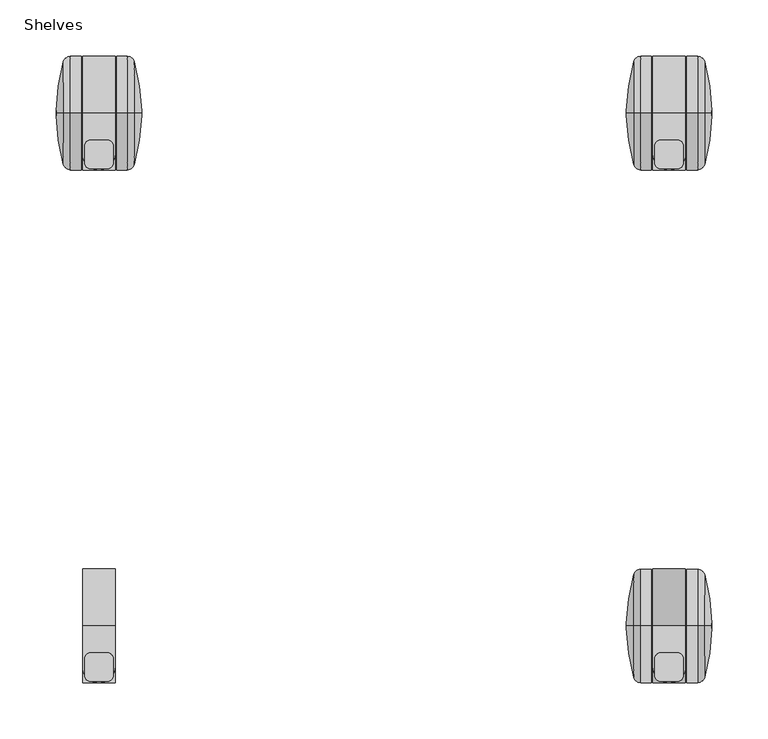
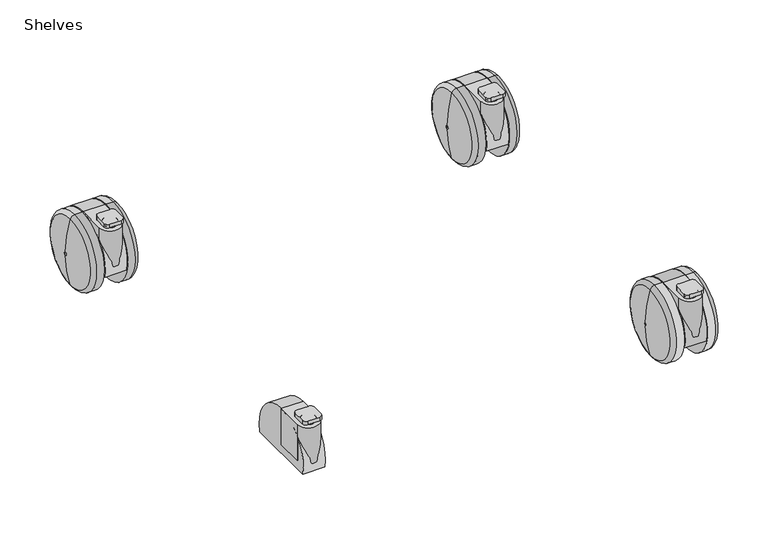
"""IFC4 building model written with IfcOpenShell, lengths in millimetres: furniture geometry, SmithSystem_AM_Storage_Education_Cascade_Case_Mini : Shelves."""

from ifc_helpers import new_model, si_unit, point, frame, frame_2d, origin, place, context, project, spatial, polyline, circle_curve, ellipse_curve, trimmed, segment, composite_curve, outline, extrude, source, transform, mapped, element, save
from ifc_brep_helpers import plane_surface, cylinder_surface, revolved_surface, advanced_brep


def shelves_1575215d(model_context):
    return source(origin(), model_context, "Body", "SolidModel", [
        advanced_brep(
        [(520.7, -20.4149191, 101.5998802), (520.7, -4.9850809, 101.5998802), (520.7, -12.7, 101.5998802), (520.7, -12.7, 106.68), (520.7, -4.9850809, 106.68), (520.7, -20.4149191, 106.68), (520.7, -20.4149191, 102.8058381), (520.7, -4.9850809, 102.8058381)],
        [
            (0, 1, circle_curve(frame((520.7, -12.7, 101.5998802), z_axis=(0.0, 0.0, -1.0), x_axis=(0.0, 1.0, 0.0)), 7.7149191)),
            (1, 2),
            (2, 0),
            (1, 0, circle_curve(frame((520.7, -12.7, 101.5998802), z_axis=(0.0, 0.0, -1.0), x_axis=(0.0, 1.0, 0.0)), 7.7149191)),
            (3, 4),
            (4, 5, circle_curve(frame((520.7, -12.7, 106.68), z_axis=(0.0, 0.0, 1.0), x_axis=(0.0, 1.0, 0.0)), 7.7149191)),
            (5, 3),
            (5, 4, circle_curve(frame((520.7, -12.7, 106.68), z_axis=(0.0, 0.0, 1.0), x_axis=(0.0, 1.0, 0.0)), 7.7149191)),
            (6, 7, circle_curve(frame((520.7, -12.7, 102.8058381), z_axis=(0.0, 0.0, -1.0), x_axis=(0.0, 1.0, 0.0)), 7.7149191)),
            (7, 1),
            (0, 6),
            (7, 6, circle_curve(frame((520.7, -12.7, 102.8058381), z_axis=(0.0, 0.0, -1.0), x_axis=(0.0, 1.0, 0.0)), 7.7149191)),
            (4, 7, circle_curve(frame((520.7, -4.9850809, 104.7429191), z_axis=(-1.0, 0.0, 0.0), x_axis=(0.0, -1.0, 0.0)), 1.9370809)),
            (6, 5, circle_curve(frame((520.7, -20.4149191, 104.7429191), z_axis=(-1.0, 0.0, 0.0), x_axis=(0.0, 1.0, 0.0)), 1.9370809)),
        ],
        [
            plane_surface(frame((520.7, -12.7, 101.5998802), z_axis=(0.0, 0.0, -1.0), x_axis=(0.0, 1.0, 0.0))),
            plane_surface(frame((520.7, -12.7, 106.68), z_axis=(0.0, 0.0, 1.0), x_axis=(0.0, 1.0, 0.0))),
            cylinder_surface(frame((520.7, -12.7, 99.7644191), z_axis=(0.0, 0.0, 1.0), x_axis=(0.0, 1.0, 0.0)), 7.7149191),
            revolved_surface(trimmed(ellipse_curve(frame((520.7, -4.9850809, 104.7429191), z_axis=(1.0, 0.0, 0.0), x_axis=(0.0, -1.0, 0.0)), 1.9370809, 1.9370809), [point((520.7, -4.9850809, 102.8058381))], [point((520.7, -4.9850809, 106.68))], True, "CARTESIAN"), (520.7, -12.7, 99.7644191), (0.0, 0.0, 1.0)),
        ],
        [
            (0, [[1, 2, 3]]),
            (0, [[4, -3, -2]]),
            (1, [[5, 6, 7]]),
            (1, [[-7, 8, -5]]),
            (2, [[9, 10, -1, 11]]),
            (2, [[12, -11, -4, -10]]),
            (3, [[-6, 13, -9, 14]]),
            (3, [[-8, -14, -12, -13]]),
        ],
    ),
        extrude(outline(composite_curve([segment(trimmed(circle_curve(frame_2d((528.32, -5.08)), 5.08), [point((528.32, 0.0))], [point((533.4, -5.08))], False, "CARTESIAN"), True, "CONTINUOUS"), segment(polyline([(533.4, -5.08), (533.4, -20.32)]), True, "CONTINUOUS"), segment(trimmed(circle_curve(frame_2d((528.32, -20.32)), 5.08), [point((533.4, -20.32))], [point((528.32, -25.4))], False, "CARTESIAN"), True, "CONTINUOUS"), segment(polyline([(528.32, -25.4), (513.08, -25.4)]), True, "CONTINUOUS"), segment(trimmed(circle_curve(frame_2d((513.08, -20.32)), 5.08), [point((513.08, -25.4))], [point((508.0, -20.32))], False, "CARTESIAN"), True, "CONTINUOUS"), segment(polyline([(508.0, -20.32), (508.0, -5.08)]), True, "CONTINUOUS"), segment(trimmed(circle_curve(frame_2d((513.08, -5.08)), 5.08), [point((508.0, -5.08))], [point((513.08, 0.0))], False, "CARTESIAN"), True, "CONTINUOUS"), segment(polyline([(513.08, 0.0), (528.32, 0.0)]), True, "CONTINUOUS")], self_intersect=False)), frame((0.0, 0.0, 106.68), z_axis=(0.0, 0.0, 1.0), x_axis=(1.0, 0.0, 0.0)), (0.0, 0.0, 1.0), 5.0798802),
        extrude(outline(composite_curve([segment(polyline([(535.2408852, 24.0714304), (535.2408852, -12.1876844)]), True, "CONTINUOUS"), segment(trimmed(circle_curve(frame_2d((520.7, -12.1876844)), 14.5408852), [point((535.2408852, -12.1876844))], [point((506.1591148, -12.1876844))], False, "CARTESIAN"), True, "CONTINUOUS"), segment(polyline([(506.1591148, -12.1876844), (506.1591148, 24.0714304), (535.2408852, 24.0714304)]), True, "CONTINUOUS")], self_intersect=False)), frame((0.0, 0.0, 50.8), z_axis=(0.0, 0.0, 1.0), x_axis=(1.0, 0.0, 0.0)), (0.0, 0.0, 1.0), 50.7998802),
        extrude(outline(composite_curve([segment(trimmed(circle_curve(frame_2d((24.0714304, 50.8)), 50.8), [point((-25.3571755, 39.0759683))], [point((73.5000362, 39.0759683))], False, "CARTESIAN"), True, "CONTINUOUS"), segment(polyline([(73.5000362, 39.0759683), (-25.3571755, 39.0759683)]), True, "CONTINUOUS")], self_intersect=False)), frame((506.1591148, 0.0, 0.0), z_axis=(1.0, 0.0, 0.0), x_axis=(0.0, 1.0, 0.0)), (0.0, 0.0, 1.0), 29.0817705),
        advanced_brep(
        [(495.2662677, 24.0714304, 101.6), (495.2662677, 24.0714304, 0.0), (504.8891148, 24.0714304, 0.0), (504.8891148, 24.0714304, 101.6), (504.8891148, 24.0714304, 50.8), (482.6, 24.0714304, 50.8), (482.6412335, 24.0714304, 48.5740197), (482.6412335, 24.0714304, 53.0259803), (489.1241972, 24.0714304, 4.7383332), (489.1241972, 24.0714304, 96.8616668)],
        [
            (0, 1, circle_curve(frame((495.2662677, 24.0714304, 50.8), z_axis=(1.0, 0.0, 0.0), x_axis=(0.0, 0.0, -1.0)), 50.8)),
            (1, 2),
            (2, 3, circle_curve(frame((504.8891148, 24.0714304, 50.8), z_axis=(-1.0, 0.0, 0.0), x_axis=(0.0, 0.0, -1.0)), 50.8)),
            (3, 0),
            (1, 0, circle_curve(frame((495.2662677, 24.0714304, 50.8), z_axis=(1.0, 0.0, 0.0), x_axis=(0.0, 0.0, -1.0)), 50.8)),
            (3, 2, circle_curve(frame((504.8891148, 24.0714304, 50.8), z_axis=(-1.0, 0.0, 0.0), x_axis=(0.0, 0.0, -1.0)), 50.8)),
            (2, 4),
            (4, 3),
            (5, 6, circle_curve(frame((542.7051167, 24.0714304, 50.8), z_axis=(0.0, -1.0, 0.0), x_axis=(1.0, 0.0, 0.0)), 60.1051167)),
            (6, 7, circle_curve(frame((482.6412335, 24.0714304, 50.8), z_axis=(-1.0, 0.0, 0.0), x_axis=(0.0, 0.0, -1.0)), 2.2259803)),
            (7, 5, circle_curve(frame((542.7051167, 24.0714304, 50.8), z_axis=(0.0, -1.0, 0.0), x_axis=(1.0, 0.0, 0.0)), 60.1051167)),
            (7, 6, circle_curve(frame((482.6412335, 24.0714304, 50.8), z_axis=(-1.0, 0.0, 0.0), x_axis=(0.0, 0.0, -1.0)), 2.2259803)),
            (6, 8, circle_curve(frame((684.7236761, 24.0714304, 56.0632381), z_axis=(0.0, -1.0, 0.0), x_axis=(1.0, 0.0, 0.0)), 202.221171)),
            (8, 9, circle_curve(frame((489.1241972, 24.0714304, 50.8), z_axis=(-1.0, 0.0, 0.0), x_axis=(0.0, 0.0, -1.0)), 46.0616668)),
            (9, 7, circle_curve(frame((684.7236761, 24.0714304, 45.5367619), z_axis=(0.0, -1.0, 0.0), x_axis=(1.0, 0.0, 0.0)), 202.221171)),
            (9, 8, circle_curve(frame((489.1241972, 24.0714304, 50.8), z_axis=(-1.0, 0.0, 0.0), x_axis=(0.0, 0.0, -1.0)), 46.0616668)),
            (8, 1, circle_curve(frame((495.2662677, 24.0714304, 6.35), z_axis=(0.0, -1.0, 0.0), x_axis=(1.0, 0.0, 0.0)), 6.35)),
            (0, 9, circle_curve(frame((495.2662677, 24.0714304, 95.25), z_axis=(0.0, -1.0, 0.0), x_axis=(1.0, 0.0, 0.0)), 6.35)),
        ],
        [
            cylinder_surface(frame((511.3119309, 24.0714304, 50.8), z_axis=(-1.0, 0.0, 0.0), x_axis=(0.0, 0.0, -1.0)), 50.8),
            plane_surface(frame((504.8891148, 24.0714304, 50.8), z_axis=(1.0, 0.0, 0.0), x_axis=(0.0, 0.0, -1.0))),
            revolved_surface(trimmed(ellipse_curve(frame((542.7051167, 24.0714304, 50.8), z_axis=(0.0, 1.0, 0.0), x_axis=(1.0, 0.0, 0.0)), 60.1051167, 60.1051167), [point((482.6412335, 24.0714304, 48.5740197))], [point((482.6, 24.0714304, 50.8))], True, "CARTESIAN"), (511.3119309, 24.0714304, 50.8), (-1.0, 0.0, 0.0)),
            revolved_surface(trimmed(ellipse_curve(frame((684.7236761, 24.0714304, 56.0632381), z_axis=(0.0, 1.0, 0.0), x_axis=(1.0, 0.0, 0.0)), 202.221171, 202.221171), [point((489.1241972, 24.0714304, 4.7383332))], [point((482.6412335, 24.0714304, 48.5740197))], True, "CARTESIAN"), (511.3119309, 24.0714304, 50.8), (-1.0, 0.0, 0.0)),
            revolved_surface(trimmed(ellipse_curve(frame((495.2662677, 24.0714304, 6.35), z_axis=(0.0, 1.0, 0.0), x_axis=(1.0, 0.0, 0.0)), 6.35, 6.35), [point((495.2662677, 24.0714304, 0.0))], [point((489.1241972, 24.0714304, 4.7383332))], True, "CARTESIAN"), (511.3119309, 24.0714304, 50.8), (-1.0, 0.0, 0.0)),
        ],
        [
            (0, [[1, 2, 3, 4]]),
            (0, [[5, -4, 6, -2]]),
            (1, [[-3, 7, 8]]),
            (1, [[-6, -8, -7]]),
            (2, [[9, 10, 11]]),
            (2, [[-11, 12, -9]]),
            (3, [[-10, 13, 14, 15]]),
            (3, [[-12, -15, 16, -13]]),
            (4, [[-14, 17, -1, 18]]),
            (4, [[-16, -18, -5, -17]]),
        ],
    ),
        advanced_brep(
        [(536.5108852, 24.0714304, 50.8), (536.5108852, 24.0714304, 0.0), (536.5108852, 24.0714304, 101.6), (546.1337323, 24.0714304, 0.0), (546.1337323, 24.0714304, 101.6), (552.2758028, 24.0714304, 4.7383332), (552.2758028, 24.0714304, 96.8616668), (558.7587665, 24.0714304, 48.5740197), (558.7587665, 24.0714304, 53.0259803), (558.8, 24.0714304, 50.8)],
        [
            (0, 1),
            (1, 2, circle_curve(frame((536.5108852, 24.0714304, 50.8), z_axis=(-1.0, 0.0, 0.0), x_axis=(0.0, 0.0, -1.0)), 50.8)),
            (2, 0),
            (2, 1, circle_curve(frame((536.5108852, 24.0714304, 50.8), z_axis=(-1.0, 0.0, 0.0), x_axis=(0.0, 0.0, -1.0)), 50.8)),
            (1, 3),
            (3, 4, circle_curve(frame((546.1337323, 24.0714304, 50.8), z_axis=(-1.0, 0.0, 0.0), x_axis=(0.0, 0.0, -1.0)), 50.8)),
            (4, 2),
            (4, 3, circle_curve(frame((546.1337323, 24.0714304, 50.8), z_axis=(-1.0, 0.0, 0.0), x_axis=(0.0, 0.0, -1.0)), 50.8)),
            (3, 5, circle_curve(frame((546.1337323, 24.0714304, 6.35), z_axis=(0.0, -1.0, 0.0), x_axis=(-1.0, 0.0, 0.0)), 6.35)),
            (5, 6, circle_curve(frame((552.2758028, 24.0714304, 50.8), z_axis=(-1.0, 0.0, 0.0), x_axis=(0.0, 0.0, -1.0)), 46.0616668)),
            (6, 4, circle_curve(frame((546.1337323, 24.0714304, 95.25), z_axis=(0.0, -1.0, 0.0), x_axis=(-1.0, 0.0, 0.0)), 6.35)),
            (6, 5, circle_curve(frame((552.2758028, 24.0714304, 50.8), z_axis=(-1.0, 0.0, 0.0), x_axis=(0.0, 0.0, -1.0)), 46.0616668)),
            (5, 7, circle_curve(frame((356.6763239, 24.0714304, 56.0632381), z_axis=(0.0, -1.0, 0.0), x_axis=(-1.0, 0.0, 0.0)), 202.221171)),
            (7, 8, circle_curve(frame((558.7587665, 24.0714304, 50.8), z_axis=(-1.0, 0.0, 0.0), x_axis=(0.0, 0.0, -1.0)), 2.2259803)),
            (8, 6, circle_curve(frame((356.6763239, 24.0714304, 45.5367619), z_axis=(0.0, -1.0, 0.0), x_axis=(-1.0, 0.0, 0.0)), 202.221171)),
            (8, 7, circle_curve(frame((558.7587665, 24.0714304, 50.8), z_axis=(-1.0, 0.0, 0.0), x_axis=(0.0, 0.0, -1.0)), 2.2259803)),
            (7, 9, circle_curve(frame((498.6948833, 24.0714304, 50.8), z_axis=(0.0, -1.0, 0.0), x_axis=(-1.0, 0.0, 0.0)), 60.1051167)),
            (9, 8, circle_curve(frame((498.6948833, 24.0714304, 50.8), z_axis=(0.0, -1.0, 0.0), x_axis=(-1.0, 0.0, 0.0)), 60.1051167)),
        ],
        [
            plane_surface(frame((536.5108852, 24.0714304, 50.8), z_axis=(-1.0, 0.0, 0.0), x_axis=(0.0, 0.0, -1.0))),
            cylinder_surface(frame((511.3119309, 24.0714304, 50.8), z_axis=(-1.0, 0.0, 0.0), x_axis=(0.0, 0.0, -1.0)), 50.8),
            revolved_surface(trimmed(ellipse_curve(frame((546.1337323, 24.0714304, 6.35), z_axis=(0.0, 1.0, 0.0), x_axis=(-1.0, 0.0, 0.0)), 6.35, 6.35), [point((552.2758028, 24.0714304, 4.7383332))], [point((546.1337323, 24.0714304, 0.0))], True, "CARTESIAN"), (511.3119309, 24.0714304, 50.8), (-1.0, 0.0, 0.0)),
            revolved_surface(trimmed(ellipse_curve(frame((356.6763239, 24.0714304, 56.0632381), z_axis=(0.0, 1.0, 0.0), x_axis=(-1.0, 0.0, 0.0)), 202.221171, 202.221171), [point((558.7587665, 24.0714304, 48.5740197))], [point((552.2758028, 24.0714304, 4.7383332))], True, "CARTESIAN"), (511.3119309, 24.0714304, 50.8), (-1.0, 0.0, 0.0)),
            revolved_surface(trimmed(ellipse_curve(frame((498.6948833, 24.0714304, 50.8), z_axis=(0.0, 1.0, 0.0), x_axis=(-1.0, 0.0, 0.0)), 60.1051167, 60.1051167), [point((558.8, 24.0714304, 50.8))], [point((558.7587665, 24.0714304, 48.5740197))], True, "CARTESIAN"), (511.3119309, 24.0714304, 50.8), (-1.0, 0.0, 0.0)),
        ],
        [
            (0, [[1, 2, 3]]),
            (0, [[-3, 4, -1]]),
            (1, [[-2, 5, 6, 7]]),
            (1, [[-4, -7, 8, -5]]),
            (2, [[-6, 9, 10, 11]]),
            (2, [[-8, -11, 12, -9]]),
            (3, [[-10, 13, 14, 15]]),
            (3, [[-12, -15, 16, -13]]),
            (4, [[-14, 17, 18]]),
            (4, [[-16, -18, -17]]),
        ],
    ),
        advanced_brep(
        [(12.7, -20.4149191, 101.5998802), (12.7, -4.9850809, 101.5998802), (12.7, -12.7, 101.5998802), (12.7, -12.7, 106.68), (12.7, -4.9850809, 106.68), (12.7, -20.4149191, 106.68), (12.7, -20.4149191, 102.8058381), (12.7, -4.9850809, 102.8058381)],
        [
            (0, 1, circle_curve(frame((12.7, -12.7, 101.5998802), z_axis=(0.0, 0.0, -1.0), x_axis=(0.0, 1.0, 0.0)), 7.7149191)),
            (1, 2),
            (2, 0),
            (1, 0, circle_curve(frame((12.7, -12.7, 101.5998802), z_axis=(0.0, 0.0, -1.0), x_axis=(0.0, 1.0, 0.0)), 7.7149191)),
            (3, 4),
            (4, 5, circle_curve(frame((12.7, -12.7, 106.68), z_axis=(0.0, 0.0, 1.0), x_axis=(0.0, 1.0, 0.0)), 7.7149191)),
            (5, 3),
            (5, 4, circle_curve(frame((12.7, -12.7, 106.68), z_axis=(0.0, 0.0, 1.0), x_axis=(0.0, 1.0, 0.0)), 7.7149191)),
            (6, 7, circle_curve(frame((12.7, -12.7, 102.8058381), z_axis=(0.0, 0.0, -1.0), x_axis=(0.0, 1.0, 0.0)), 7.7149191)),
            (7, 1),
            (0, 6),
            (7, 6, circle_curve(frame((12.7, -12.7, 102.8058381), z_axis=(0.0, 0.0, -1.0), x_axis=(0.0, 1.0, 0.0)), 7.7149191)),
            (4, 7, circle_curve(frame((12.7, -4.9850809, 104.7429191), z_axis=(-1.0, 0.0, 0.0), x_axis=(0.0, -1.0, 0.0)), 1.9370809)),
            (6, 5, circle_curve(frame((12.7, -20.4149191, 104.7429191), z_axis=(-1.0, 0.0, 0.0), x_axis=(0.0, 1.0, 0.0)), 1.9370809)),
        ],
        [
            plane_surface(frame((12.7, -12.7, 101.5998802), z_axis=(0.0, 0.0, -1.0), x_axis=(0.0, 1.0, 0.0))),
            plane_surface(frame((12.7, -12.7, 106.68), z_axis=(0.0, 0.0, 1.0), x_axis=(0.0, 1.0, 0.0))),
            cylinder_surface(frame((12.7, -12.7, 99.7644191), z_axis=(0.0, 0.0, 1.0), x_axis=(0.0, 1.0, 0.0)), 7.7149191),
            revolved_surface(trimmed(ellipse_curve(frame((12.7, -4.9850809, 104.7429191), z_axis=(1.0, 0.0, 0.0), x_axis=(0.0, -1.0, 0.0)), 1.9370809, 1.9370809), [point((12.7, -4.9850809, 102.8058381))], [point((12.7, -4.9850809, 106.68))], True, "CARTESIAN"), (12.7, -12.7, 99.7644191), (0.0, 0.0, 1.0)),
        ],
        [
            (0, [[1, 2, 3]]),
            (0, [[4, -3, -2]]),
            (1, [[5, 6, 7]]),
            (1, [[-7, 8, -5]]),
            (2, [[9, 10, -1, 11]]),
            (2, [[12, -11, -4, -10]]),
            (3, [[-6, 13, -9, 14]]),
            (3, [[-8, -14, -12, -13]]),
        ],
    ),
        extrude(outline(composite_curve([segment(trimmed(circle_curve(frame_2d((20.32, -5.08)), 5.08), [point((20.32, 0.0))], [point((25.4, -5.08))], False, "CARTESIAN"), True, "CONTINUOUS"), segment(polyline([(25.4, -5.08), (25.4, -20.32)]), True, "CONTINUOUS"), segment(trimmed(circle_curve(frame_2d((20.32, -20.32)), 5.08), [point((25.4, -20.32))], [point((20.32, -25.4))], False, "CARTESIAN"), True, "CONTINUOUS"), segment(polyline([(20.32, -25.4), (5.08, -25.4)]), True, "CONTINUOUS"), segment(trimmed(circle_curve(frame_2d((5.08, -20.32)), 5.08), [point((5.08, -25.4))], [point((0.0, -20.32))], False, "CARTESIAN"), True, "CONTINUOUS"), segment(polyline([(0.0, -20.32), (0.0, -5.08)]), True, "CONTINUOUS"), segment(trimmed(circle_curve(frame_2d((5.08, -5.08)), 5.08), [point((0.0, -5.08))], [point((5.08, 0.0))], False, "CARTESIAN"), True, "CONTINUOUS"), segment(polyline([(5.08, 0.0), (20.32, 0.0)]), True, "CONTINUOUS")], self_intersect=False)), frame((0.0, 0.0, 106.68), z_axis=(0.0, 0.0, 1.0), x_axis=(1.0, 0.0, 0.0)), (0.0, 0.0, 1.0), 5.0798802),
        extrude(outline(composite_curve([segment(polyline([(27.2408852, 24.0714304), (27.2408852, -12.1876844)]), True, "CONTINUOUS"), segment(trimmed(circle_curve(frame_2d((12.7, -12.1876844)), 14.5408852), [point((27.2408852, -12.1876844))], [point((-1.8408852, -12.1876844))], False, "CARTESIAN"), True, "CONTINUOUS"), segment(polyline([(-1.8408852, -12.1876844), (-1.8408852, 24.0714304), (27.2408852, 24.0714304)]), True, "CONTINUOUS")], self_intersect=False)), frame((0.0, 0.0, 50.8), z_axis=(0.0, 0.0, 1.0), x_axis=(1.0, 0.0, 0.0)), (0.0, 0.0, 1.0), 50.7998802),
        extrude(outline(composite_curve([segment(trimmed(circle_curve(frame_2d((24.0714304, 50.8)), 50.8), [point((-25.3571755, 39.0759683))], [point((73.5000362, 39.0759683))], False, "CARTESIAN"), True, "CONTINUOUS"), segment(polyline([(73.5000362, 39.0759683), (-25.3571755, 39.0759683)]), True, "CONTINUOUS")], self_intersect=False)), frame((-1.8408852, 0.0, 0.0), z_axis=(1.0, 0.0, 0.0), x_axis=(0.0, 1.0, 0.0)), (0.0, 0.0, 1.0), 29.0817705),
        advanced_brep(
        [(-12.7337323, 24.0714304, 101.6), (-12.7337323, 24.0714304, 0.0), (-3.1108852, 24.0714304, 0.0), (-3.1108852, 24.0714304, 101.6), (-3.1108852, 24.0714304, 50.8), (-25.4, 24.0714304, 50.8), (-25.3587665, 24.0714304, 48.5740197), (-25.3587665, 24.0714304, 53.0259803), (-18.8758028, 24.0714304, 4.7383332), (-18.8758028, 24.0714304, 96.8616668)],
        [
            (0, 1, circle_curve(frame((-12.7337323, 24.0714304, 50.8), z_axis=(1.0, 0.0, 0.0), x_axis=(0.0, 0.0, -1.0)), 50.8)),
            (1, 2),
            (2, 3, circle_curve(frame((-3.1108852, 24.0714304, 50.8), z_axis=(-1.0, 0.0, 0.0), x_axis=(0.0, 0.0, -1.0)), 50.8)),
            (3, 0),
            (1, 0, circle_curve(frame((-12.7337323, 24.0714304, 50.8), z_axis=(1.0, 0.0, 0.0), x_axis=(0.0, 0.0, -1.0)), 50.8)),
            (3, 2, circle_curve(frame((-3.1108852, 24.0714304, 50.8), z_axis=(-1.0, 0.0, 0.0), x_axis=(0.0, 0.0, -1.0)), 50.8)),
            (2, 4),
            (4, 3),
            (5, 6, circle_curve(frame((34.7051167, 24.0714304, 50.8), z_axis=(0.0, -1.0, 0.0), x_axis=(1.0, 0.0, 0.0)), 60.1051167)),
            (6, 7, circle_curve(frame((-25.3587665, 24.0714304, 50.8), z_axis=(-1.0, 0.0, 0.0), x_axis=(0.0, 0.0, -1.0)), 2.2259803)),
            (7, 5, circle_curve(frame((34.7051167, 24.0714304, 50.8), z_axis=(0.0, -1.0, 0.0), x_axis=(1.0, 0.0, 0.0)), 60.1051167)),
            (7, 6, circle_curve(frame((-25.3587665, 24.0714304, 50.8), z_axis=(-1.0, 0.0, 0.0), x_axis=(0.0, 0.0, -1.0)), 2.2259803)),
            (6, 8, circle_curve(frame((176.7236761, 24.0714304, 56.0632381), z_axis=(0.0, -1.0, 0.0), x_axis=(1.0, 0.0, 0.0)), 202.221171)),
            (8, 9, circle_curve(frame((-18.8758028, 24.0714304, 50.8), z_axis=(-1.0, 0.0, 0.0), x_axis=(0.0, 0.0, -1.0)), 46.0616668)),
            (9, 7, circle_curve(frame((176.7236761, 24.0714304, 45.5367619), z_axis=(0.0, -1.0, 0.0), x_axis=(1.0, 0.0, 0.0)), 202.221171)),
            (9, 8, circle_curve(frame((-18.8758028, 24.0714304, 50.8), z_axis=(-1.0, 0.0, 0.0), x_axis=(0.0, 0.0, -1.0)), 46.0616668)),
            (8, 1, circle_curve(frame((-12.7337323, 24.0714304, 6.35), z_axis=(0.0, -1.0, 0.0), x_axis=(1.0, 0.0, 0.0)), 6.35)),
            (0, 9, circle_curve(frame((-12.7337323, 24.0714304, 95.25), z_axis=(0.0, -1.0, 0.0), x_axis=(1.0, 0.0, 0.0)), 6.35)),
        ],
        [
            cylinder_surface(frame((3.3119309, 24.0714304, 50.8), z_axis=(-1.0, 0.0, 0.0), x_axis=(0.0, 0.0, -1.0)), 50.8),
            plane_surface(frame((-3.1108852, 24.0714304, 50.8), z_axis=(1.0, 0.0, 0.0), x_axis=(0.0, 0.0, -1.0))),
            revolved_surface(trimmed(ellipse_curve(frame((34.7051167, 24.0714304, 50.8), z_axis=(0.0, 1.0, 0.0), x_axis=(1.0, 0.0, 0.0)), 60.1051167, 60.1051167), [point((-25.3587665, 24.0714304, 48.5740197))], [point((-25.4, 24.0714304, 50.8))], True, "CARTESIAN"), (3.3119309, 24.0714304, 50.8), (-1.0, 0.0, 0.0)),
            revolved_surface(trimmed(ellipse_curve(frame((176.7236761, 24.0714304, 56.0632381), z_axis=(0.0, 1.0, 0.0), x_axis=(1.0, 0.0, 0.0)), 202.221171, 202.221171), [point((-18.8758028, 24.0714304, 4.7383332))], [point((-25.3587665, 24.0714304, 48.5740197))], True, "CARTESIAN"), (3.3119309, 24.0714304, 50.8), (-1.0, 0.0, 0.0)),
            revolved_surface(trimmed(ellipse_curve(frame((-12.7337323, 24.0714304, 6.35), z_axis=(0.0, 1.0, 0.0), x_axis=(1.0, 0.0, 0.0)), 6.35, 6.35), [point((-12.7337323, 24.0714304, 0.0))], [point((-18.8758028, 24.0714304, 4.7383332))], True, "CARTESIAN"), (3.3119309, 24.0714304, 50.8), (-1.0, 0.0, 0.0)),
        ],
        [
            (0, [[1, 2, 3, 4]]),
            (0, [[5, -4, 6, -2]]),
            (1, [[-3, 7, 8]]),
            (1, [[-6, -8, -7]]),
            (2, [[9, 10, 11]]),
            (2, [[-11, 12, -9]]),
            (3, [[-10, 13, 14, 15]]),
            (3, [[-12, -15, 16, -13]]),
            (4, [[-14, 17, -1, 18]]),
            (4, [[-16, -18, -5, -17]]),
        ],
    ),
        advanced_brep(
        [(28.5108852, 24.0714304, 50.8), (28.5108852, 24.0714304, 0.0), (28.5108852, 24.0714304, 101.6), (38.1337323, 24.0714304, 0.0), (38.1337323, 24.0714304, 101.6), (44.2758028, 24.0714304, 4.7383332), (44.2758028, 24.0714304, 96.8616668), (50.7587665, 24.0714304, 48.5740197), (50.7587665, 24.0714304, 53.0259803), (50.8, 24.0714304, 50.8)],
        [
            (0, 1),
            (1, 2, circle_curve(frame((28.5108852, 24.0714304, 50.8), z_axis=(-1.0, 0.0, 0.0), x_axis=(0.0, 0.0, -1.0)), 50.8)),
            (2, 0),
            (2, 1, circle_curve(frame((28.5108852, 24.0714304, 50.8), z_axis=(-1.0, 0.0, 0.0), x_axis=(0.0, 0.0, -1.0)), 50.8)),
            (1, 3),
            (3, 4, circle_curve(frame((38.1337323, 24.0714304, 50.8), z_axis=(-1.0, 0.0, 0.0), x_axis=(0.0, 0.0, -1.0)), 50.8)),
            (4, 2),
            (4, 3, circle_curve(frame((38.1337323, 24.0714304, 50.8), z_axis=(-1.0, 0.0, 0.0), x_axis=(0.0, 0.0, -1.0)), 50.8)),
            (3, 5, circle_curve(frame((38.1337323, 24.0714304, 6.35), z_axis=(0.0, -1.0, 0.0), x_axis=(-1.0, 0.0, 0.0)), 6.35)),
            (5, 6, circle_curve(frame((44.2758028, 24.0714304, 50.8), z_axis=(-1.0, 0.0, 0.0), x_axis=(0.0, 0.0, -1.0)), 46.0616668)),
            (6, 4, circle_curve(frame((38.1337323, 24.0714304, 95.25), z_axis=(0.0, -1.0, 0.0), x_axis=(-1.0, 0.0, 0.0)), 6.35)),
            (6, 5, circle_curve(frame((44.2758028, 24.0714304, 50.8), z_axis=(-1.0, 0.0, 0.0), x_axis=(0.0, 0.0, -1.0)), 46.0616668)),
            (5, 7, circle_curve(frame((-151.3236761, 24.0714304, 56.0632381), z_axis=(0.0, -1.0, 0.0), x_axis=(-1.0, 0.0, 0.0)), 202.221171)),
            (7, 8, circle_curve(frame((50.7587665, 24.0714304, 50.8), z_axis=(-1.0, 0.0, 0.0), x_axis=(0.0, 0.0, -1.0)), 2.2259803)),
            (8, 6, circle_curve(frame((-151.3236761, 24.0714304, 45.5367619), z_axis=(0.0, -1.0, 0.0), x_axis=(-1.0, 0.0, 0.0)), 202.221171)),
            (8, 7, circle_curve(frame((50.7587665, 24.0714304, 50.8), z_axis=(-1.0, 0.0, 0.0), x_axis=(0.0, 0.0, -1.0)), 2.2259803)),
            (7, 9, circle_curve(frame((-9.3051167, 24.0714304, 50.8), z_axis=(0.0, -1.0, 0.0), x_axis=(-1.0, 0.0, 0.0)), 60.1051167)),
            (9, 8, circle_curve(frame((-9.3051167, 24.0714304, 50.8), z_axis=(0.0, -1.0, 0.0), x_axis=(-1.0, 0.0, 0.0)), 60.1051167)),
        ],
        [
            plane_surface(frame((28.5108852, 24.0714304, 50.8), z_axis=(-1.0, 0.0, 0.0), x_axis=(0.0, 0.0, -1.0))),
            cylinder_surface(frame((3.3119309, 24.0714304, 50.8), z_axis=(-1.0, 0.0, 0.0), x_axis=(0.0, 0.0, -1.0)), 50.8),
            revolved_surface(trimmed(ellipse_curve(frame((38.1337323, 24.0714304, 6.35), z_axis=(0.0, 1.0, 0.0), x_axis=(-1.0, 0.0, 0.0)), 6.35, 6.35), [point((44.2758028, 24.0714304, 4.7383332))], [point((38.1337323, 24.0714304, 0.0))], True, "CARTESIAN"), (3.3119309, 24.0714304, 50.8), (-1.0, 0.0, 0.0)),
            revolved_surface(trimmed(ellipse_curve(frame((-151.3236761, 24.0714304, 56.0632381), z_axis=(0.0, 1.0, 0.0), x_axis=(-1.0, 0.0, 0.0)), 202.221171, 202.221171), [point((50.7587665, 24.0714304, 48.5740197))], [point((44.2758028, 24.0714304, 4.7383332))], True, "CARTESIAN"), (3.3119309, 24.0714304, 50.8), (-1.0, 0.0, 0.0)),
            revolved_surface(trimmed(ellipse_curve(frame((-9.3051167, 24.0714304, 50.8), z_axis=(0.0, 1.0, 0.0), x_axis=(-1.0, 0.0, 0.0)), 60.1051167, 60.1051167), [point((50.8, 24.0714304, 50.8))], [point((50.7587665, 24.0714304, 48.5740197))], True, "CARTESIAN"), (3.3119309, 24.0714304, 50.8), (-1.0, 0.0, 0.0)),
        ],
        [
            (0, [[1, 2, 3]]),
            (0, [[-3, 4, -1]]),
            (1, [[-2, 5, 6, 7]]),
            (1, [[-4, -7, 8, -5]]),
            (2, [[-6, 9, 10, 11]]),
            (2, [[-8, -11, 12, -9]]),
            (3, [[-10, 13, 14, 15]]),
            (3, [[-12, -15, 16, -13]]),
            (4, [[-14, 17, 18]]),
            (4, [[-16, -18, -17]]),
        ],
    ),
        advanced_brep(
        [(520.7, -477.6149191, 101.5998802), (520.7, -469.9, 101.5998802), (520.7, -462.1850809, 101.5998802), (520.7, -469.9, 106.68), (520.7, -477.6149191, 106.68), (520.7, -462.1850809, 106.68), (520.7, -477.6149191, 102.8058381), (520.7, -462.1850809, 102.8058381)],
        [
            (0, 1),
            (1, 2),
            (2, 0, circle_curve(frame((520.7, -469.9, 101.5998802), z_axis=(0.0, 0.0, -1.0), x_axis=(0.0, 1.0, 0.0)), 7.7149191)),
            (0, 2, circle_curve(frame((520.7, -469.9, 101.5998802), z_axis=(0.0, 0.0, -1.0), x_axis=(0.0, 1.0, 0.0)), 7.7149191)),
            (3, 4),
            (4, 5, circle_curve(frame((520.7, -469.9, 106.68), z_axis=(0.0, 0.0, 1.0), x_axis=(0.0, 1.0, 0.0)), 7.7149191)),
            (5, 3),
            (5, 4, circle_curve(frame((520.7, -469.9, 106.68), z_axis=(0.0, 0.0, 1.0), x_axis=(0.0, 1.0, 0.0)), 7.7149191)),
            (6, 0),
            (2, 7),
            (7, 6, circle_curve(frame((520.7, -469.9, 102.8058381), z_axis=(0.0, 0.0, -1.0), x_axis=(0.0, 1.0, 0.0)), 7.7149191)),
            (6, 7, circle_curve(frame((520.7, -469.9, 102.8058381), z_axis=(0.0, 0.0, -1.0), x_axis=(0.0, 1.0, 0.0)), 7.7149191)),
            (4, 6, circle_curve(frame((520.7, -477.6149191, 104.7429191), z_axis=(1.0, 0.0, 0.0), x_axis=(0.0, 1.0, 0.0)), 1.9370809)),
            (7, 5, circle_curve(frame((520.7, -462.1850809, 104.7429191), z_axis=(1.0, 0.0, 0.0), x_axis=(0.0, -1.0, 0.0)), 1.9370809)),
        ],
        [
            plane_surface(frame((520.7, -469.9, 101.5998802), z_axis=(0.0, 0.0, -1.0), x_axis=(0.0, 1.0, 0.0))),
            plane_surface(frame((520.7, -469.9, 106.68), z_axis=(0.0, 0.0, 1.0), x_axis=(0.0, 1.0, 0.0))),
            cylinder_surface(frame((520.7, -469.9, 99.7644191), z_axis=(0.0, 0.0, 1.0), x_axis=(0.0, 1.0, 0.0)), 7.7149191),
            revolved_surface(trimmed(ellipse_curve(frame((520.7, -462.1850809, 104.7429191), z_axis=(1.0, 0.0, 0.0), x_axis=(0.0, -1.0, 0.0)), 1.9370809, 1.9370809), [point((520.7, -462.1850809, 102.8058381))], [point((520.7, -462.1850809, 106.68))], True, "CARTESIAN"), (520.7, -469.9, 99.7644191), (0.0, 0.0, 1.0)),
        ],
        [
            (0, [[1, 2, 3]]),
            (0, [[-2, -1, 4]]),
            (1, [[5, 6, 7]]),
            (1, [[-7, 8, -5]]),
            (2, [[9, -3, 10, 11]]),
            (2, [[-10, -4, -9, 12]]),
            (3, [[13, -11, 14, -6]]),
            (3, [[-14, -12, -13, -8]]),
        ],
    ),
        extrude(outline(composite_curve([segment(polyline([(513.08, -457.2), (528.32, -457.2)]), True, "CONTINUOUS"), segment(trimmed(circle_curve(frame_2d((528.32, -462.28)), 5.08), [point((528.32, -457.2))], [point((533.4, -462.28))], False, "CARTESIAN"), True, "CONTINUOUS"), segment(polyline([(533.4, -462.28), (533.4, -477.52)]), True, "CONTINUOUS"), segment(trimmed(circle_curve(frame_2d((528.32, -477.52)), 5.08), [point((533.4, -477.52))], [point((528.32, -482.6))], False, "CARTESIAN"), True, "CONTINUOUS"), segment(polyline([(528.32, -482.6), (513.08, -482.6)]), True, "CONTINUOUS"), segment(trimmed(circle_curve(frame_2d((513.08, -477.52)), 5.08), [point((513.08, -482.6))], [point((508.0, -477.52))], False, "CARTESIAN"), True, "CONTINUOUS"), segment(polyline([(508.0, -477.52), (508.0, -462.28)]), True, "CONTINUOUS"), segment(trimmed(circle_curve(frame_2d((513.08, -462.28)), 5.08), [point((508.0, -462.28))], [point((513.08, -457.2))], False, "CARTESIAN"), True, "CONTINUOUS")], self_intersect=False)), frame((0.0, 0.0, 106.68), z_axis=(0.0, 0.0, 1.0), x_axis=(1.0, 0.0, 0.0)), (0.0, 0.0, 1.0), 5.0798802),
        extrude(outline(composite_curve([segment(polyline([(506.1591148, -433.1285696), (535.2408852, -433.1285696), (535.2408852, -469.3876844)]), True, "CONTINUOUS"), segment(trimmed(circle_curve(frame_2d((520.7, -469.3876844)), 14.5408852), [point((535.2408852, -469.3876844))], [point((506.1591148, -469.3876844))], False, "CARTESIAN"), True, "CONTINUOUS"), segment(polyline([(506.1591148, -469.3876844), (506.1591148, -433.1285696)]), True, "CONTINUOUS")], self_intersect=False)), frame((0.0, 0.0, 50.8), z_axis=(0.0, 0.0, 1.0), x_axis=(1.0, 0.0, 0.0)), (0.0, 0.0, 1.0), 50.7998802),
        extrude(outline(composite_curve([segment(trimmed(circle_curve(frame_2d((-433.1285696, 50.8)), 50.8), [point((-482.5571755, 39.0759683))], [point((-383.6999638, 39.0759683))], False, "CARTESIAN"), True, "CONTINUOUS"), segment(polyline([(-383.6999638, 39.0759683), (-482.5571755, 39.0759683)]), True, "CONTINUOUS")], self_intersect=False)), frame((506.1591148, 0.0, 0.0), z_axis=(1.0, 0.0, 0.0), x_axis=(0.0, 1.0, 0.0)), (0.0, 0.0, 1.0), 29.0817705),
        advanced_brep(
        [(546.1337323, -433.1285696, 101.6), (536.5108852, -433.1285696, 101.6), (536.5108852, -433.1285696, 0.0), (546.1337323, -433.1285696, 0.0), (536.5108852, -433.1285696, 50.8), (558.8, -433.1285696, 50.8), (558.7587665, -433.1285696, 53.0259803), (558.7587665, -433.1285696, 48.5740197), (552.2758028, -433.1285696, 96.8616668), (552.2758028, -433.1285696, 4.7383332)],
        [
            (0, 1),
            (1, 2, circle_curve(frame((536.5108852, -433.1285696, 50.8), z_axis=(1.0, 0.0, 0.0), x_axis=(0.0, 0.0, -1.0)), 50.8)),
            (2, 3),
            (3, 0, circle_curve(frame((546.1337323, -433.1285696, 50.8), z_axis=(-1.0, 0.0, 0.0), x_axis=(0.0, 0.0, -1.0)), 50.8)),
            (2, 1, circle_curve(frame((536.5108852, -433.1285696, 50.8), z_axis=(1.0, 0.0, 0.0), x_axis=(0.0, 0.0, -1.0)), 50.8)),
            (0, 3, circle_curve(frame((546.1337323, -433.1285696, 50.8), z_axis=(-1.0, 0.0, 0.0), x_axis=(0.0, 0.0, -1.0)), 50.8)),
            (1, 4),
            (4, 2),
            (5, 6, circle_curve(frame((498.6948833, -433.1285696, 50.8), z_axis=(0.0, -1.0, 0.0), x_axis=(-1.0, 0.0, 0.0)), 60.1051167)),
            (6, 7, circle_curve(frame((558.7587665, -433.1285696, 50.8), z_axis=(1.0, 0.0, 0.0), x_axis=(0.0, 0.0, -1.0)), 2.2259803)),
            (7, 5, circle_curve(frame((498.6948833, -433.1285696, 50.8), z_axis=(0.0, -1.0, 0.0), x_axis=(-1.0, 0.0, 0.0)), 60.1051167)),
            (7, 6, circle_curve(frame((558.7587665, -433.1285696, 50.8), z_axis=(1.0, 0.0, 0.0), x_axis=(0.0, 0.0, -1.0)), 2.2259803)),
            (6, 8, circle_curve(frame((356.6763239, -433.1285696, 45.5367619), z_axis=(0.0, -1.0, 0.0), x_axis=(-1.0, 0.0, 0.0)), 202.221171)),
            (8, 9, circle_curve(frame((552.2758028, -433.1285696, 50.8), z_axis=(1.0, 0.0, 0.0), x_axis=(0.0, 0.0, -1.0)), 46.0616668)),
            (9, 7, circle_curve(frame((356.6763239, -433.1285696, 56.0632381), z_axis=(0.0, -1.0, 0.0), x_axis=(-1.0, 0.0, 0.0)), 202.221171)),
            (9, 8, circle_curve(frame((552.2758028, -433.1285696, 50.8), z_axis=(1.0, 0.0, 0.0), x_axis=(0.0, 0.0, -1.0)), 46.0616668)),
            (8, 0, circle_curve(frame((546.1337323, -433.1285696, 95.25), z_axis=(0.0, -1.0, 0.0), x_axis=(-1.0, 0.0, 0.0)), 6.35)),
            (3, 9, circle_curve(frame((546.1337323, -433.1285696, 6.35), z_axis=(0.0, -1.0, 0.0), x_axis=(-1.0, 0.0, 0.0)), 6.35)),
        ],
        [
            cylinder_surface(frame((530.0880691, -433.1285696, 50.8), z_axis=(1.0, 0.0, 0.0), x_axis=(0.0, 0.0, -1.0)), 50.8),
            plane_surface(frame((536.5108852, -433.1285696, 50.8), z_axis=(-1.0, 0.0, 0.0), x_axis=(0.0, 0.0, -1.0))),
            revolved_surface(trimmed(ellipse_curve(frame((498.6948833, -433.1285696, 50.8), z_axis=(0.0, -1.0, 0.0), x_axis=(-1.0, 0.0, 0.0)), 60.1051167, 60.1051167), [point((558.7587665, -433.1285696, 48.5740197))], [point((558.8, -433.1285696, 50.8))], True, "CARTESIAN"), (530.0880691, -433.1285696, 50.8), (1.0, 0.0, 0.0)),
            revolved_surface(trimmed(ellipse_curve(frame((356.6763239, -433.1285696, 56.0632381), z_axis=(0.0, -1.0, 0.0), x_axis=(-1.0, 0.0, 0.0)), 202.221171, 202.221171), [point((552.2758028, -433.1285696, 4.7383332))], [point((558.7587665, -433.1285696, 48.5740197))], True, "CARTESIAN"), (530.0880691, -433.1285696, 50.8), (1.0, 0.0, 0.0)),
            revolved_surface(trimmed(ellipse_curve(frame((546.1337323, -433.1285696, 6.35), z_axis=(0.0, -1.0, 0.0), x_axis=(-1.0, 0.0, 0.0)), 6.35, 6.35), [point((546.1337323, -433.1285696, 0.0))], [point((552.2758028, -433.1285696, 4.7383332))], True, "CARTESIAN"), (530.0880691, -433.1285696, 50.8), (1.0, 0.0, 0.0)),
        ],
        [
            (0, [[1, 2, 3, 4]]),
            (0, [[-3, 5, -1, 6]]),
            (1, [[7, 8, -2]]),
            (1, [[-8, -7, -5]]),
            (2, [[9, 10, 11]]),
            (2, [[-11, 12, -9]]),
            (3, [[13, 14, 15, -10]]),
            (3, [[-15, 16, -13, -12]]),
            (4, [[17, -4, 18, -14]]),
            (4, [[-18, -6, -17, -16]]),
        ],
    ),
        advanced_brep(
        [(504.8891148, -433.1285696, 50.8), (504.8891148, -433.1285696, 101.6), (504.8891148, -433.1285696, 0.0), (495.2662677, -433.1285696, 101.6), (495.2662677, -433.1285696, 0.0), (489.1241972, -433.1285696, 96.8616668), (489.1241972, -433.1285696, 4.7383332), (482.6412335, -433.1285696, 53.0259803), (482.6412335, -433.1285696, 48.5740197), (482.6, -433.1285696, 50.8)],
        [
            (0, 1),
            (1, 2, circle_curve(frame((504.8891148, -433.1285696, 50.8), z_axis=(1.0, 0.0, 0.0), x_axis=(0.0, 0.0, -1.0)), 50.8)),
            (2, 0),
            (2, 1, circle_curve(frame((504.8891148, -433.1285696, 50.8), z_axis=(1.0, 0.0, 0.0), x_axis=(0.0, 0.0, -1.0)), 50.8)),
            (1, 3),
            (3, 4, circle_curve(frame((495.2662677, -433.1285696, 50.8), z_axis=(1.0, 0.0, 0.0), x_axis=(0.0, 0.0, -1.0)), 50.8)),
            (4, 2),
            (4, 3, circle_curve(frame((495.2662677, -433.1285696, 50.8), z_axis=(1.0, 0.0, 0.0), x_axis=(0.0, 0.0, -1.0)), 50.8)),
            (3, 5, circle_curve(frame((495.2662677, -433.1285696, 95.25), z_axis=(0.0, -1.0, 0.0), x_axis=(1.0, 0.0, 0.0)), 6.35)),
            (5, 6, circle_curve(frame((489.1241972, -433.1285696, 50.8), z_axis=(1.0, 0.0, 0.0), x_axis=(0.0, 0.0, -1.0)), 46.0616668)),
            (6, 4, circle_curve(frame((495.2662677, -433.1285696, 6.35), z_axis=(0.0, -1.0, 0.0), x_axis=(1.0, 0.0, 0.0)), 6.35)),
            (6, 5, circle_curve(frame((489.1241972, -433.1285696, 50.8), z_axis=(1.0, 0.0, 0.0), x_axis=(0.0, 0.0, -1.0)), 46.0616668)),
            (5, 7, circle_curve(frame((684.7236761, -433.1285696, 45.5367619), z_axis=(0.0, -1.0, 0.0), x_axis=(1.0, 0.0, 0.0)), 202.221171)),
            (7, 8, circle_curve(frame((482.6412335, -433.1285696, 50.8), z_axis=(1.0, 0.0, 0.0), x_axis=(0.0, 0.0, -1.0)), 2.2259803)),
            (8, 6, circle_curve(frame((684.7236761, -433.1285696, 56.0632381), z_axis=(0.0, -1.0, 0.0), x_axis=(1.0, 0.0, 0.0)), 202.221171)),
            (8, 7, circle_curve(frame((482.6412335, -433.1285696, 50.8), z_axis=(1.0, 0.0, 0.0), x_axis=(0.0, 0.0, -1.0)), 2.2259803)),
            (7, 9, circle_curve(frame((542.7051167, -433.1285696, 50.8), z_axis=(0.0, -1.0, 0.0), x_axis=(1.0, 0.0, 0.0)), 60.1051167)),
            (9, 8, circle_curve(frame((542.7051167, -433.1285696, 50.8), z_axis=(0.0, -1.0, 0.0), x_axis=(1.0, 0.0, 0.0)), 60.1051167)),
        ],
        [
            plane_surface(frame((504.8891148, -433.1285696, 50.8), z_axis=(1.0, 0.0, 0.0), x_axis=(0.0, 0.0, -1.0))),
            cylinder_surface(frame((530.0880691, -433.1285696, 50.8), z_axis=(1.0, 0.0, 0.0), x_axis=(0.0, 0.0, -1.0)), 50.8),
            revolved_surface(trimmed(ellipse_curve(frame((495.2662677, -433.1285696, 6.35), z_axis=(0.0, -1.0, 0.0), x_axis=(1.0, 0.0, 0.0)), 6.35, 6.35), [point((489.1241972, -433.1285696, 4.7383332))], [point((495.2662677, -433.1285696, 0.0))], True, "CARTESIAN"), (530.0880691, -433.1285696, 50.8), (1.0, 0.0, 0.0)),
            revolved_surface(trimmed(ellipse_curve(frame((684.7236761, -433.1285696, 56.0632381), z_axis=(0.0, -1.0, 0.0), x_axis=(1.0, 0.0, 0.0)), 202.221171, 202.221171), [point((482.6412335, -433.1285696, 48.5740197))], [point((489.1241972, -433.1285696, 4.7383332))], True, "CARTESIAN"), (530.0880691, -433.1285696, 50.8), (1.0, 0.0, 0.0)),
            revolved_surface(trimmed(ellipse_curve(frame((542.7051167, -433.1285696, 50.8), z_axis=(0.0, -1.0, 0.0), x_axis=(1.0, 0.0, 0.0)), 60.1051167, 60.1051167), [point((482.6, -433.1285696, 50.8))], [point((482.6412335, -433.1285696, 48.5740197))], True, "CARTESIAN"), (530.0880691, -433.1285696, 50.8), (1.0, 0.0, 0.0)),
        ],
        [
            (0, [[1, 2, 3]]),
            (0, [[-3, 4, -1]]),
            (1, [[5, 6, 7, -2]]),
            (1, [[-7, 8, -5, -4]]),
            (2, [[9, 10, 11, -6]]),
            (2, [[-11, 12, -9, -8]]),
            (3, [[13, 14, 15, -10]]),
            (3, [[-15, 16, -13, -12]]),
            (4, [[17, 18, -14]]),
            (4, [[-18, -17, -16]]),
        ],
    ),
        advanced_brep(
        [(12.7, -477.6149191, 101.5998802), (12.7, -462.1850809, 101.5998802), (12.7, -469.9, 101.5998802), (12.7, -469.9, 106.68), (12.7, -462.1850809, 106.68), (12.7, -477.6149191, 106.68), (12.7, -477.6149191, 102.8058381), (12.7, -462.1850809, 102.8058381)],
        [
            (0, 1, circle_curve(frame((12.7, -469.9, 101.5998802), z_axis=(0.0, 0.0, -1.0), x_axis=(0.0, 1.0, 0.0)), 7.7149191)),
            (1, 2),
            (2, 0),
            (1, 0, circle_curve(frame((12.7, -469.9, 101.5998802), z_axis=(0.0, 0.0, -1.0), x_axis=(0.0, 1.0, 0.0)), 7.7149191)),
            (3, 4),
            (4, 5, circle_curve(frame((12.7, -469.9, 106.68), z_axis=(0.0, 0.0, 1.0), x_axis=(0.0, 1.0, 0.0)), 7.7149191)),
            (5, 3),
            (5, 4, circle_curve(frame((12.7, -469.9, 106.68), z_axis=(0.0, 0.0, 1.0), x_axis=(0.0, 1.0, 0.0)), 7.7149191)),
            (6, 7, circle_curve(frame((12.7, -469.9, 102.8058381), z_axis=(0.0, 0.0, -1.0), x_axis=(0.0, 1.0, 0.0)), 7.7149191)),
            (7, 1),
            (0, 6),
            (7, 6, circle_curve(frame((12.7, -469.9, 102.8058381), z_axis=(0.0, 0.0, -1.0), x_axis=(0.0, 1.0, 0.0)), 7.7149191)),
            (4, 7, circle_curve(frame((12.7, -462.1850809, 104.7429191), z_axis=(-1.0, 0.0, 0.0), x_axis=(0.0, -1.0, 0.0)), 1.9370809)),
            (6, 5, circle_curve(frame((12.7, -477.6149191, 104.7429191), z_axis=(-1.0, 0.0, 0.0), x_axis=(0.0, 1.0, 0.0)), 1.9370809)),
        ],
        [
            plane_surface(frame((12.7, -469.9, 101.5998802), z_axis=(0.0, 0.0, -1.0), x_axis=(0.0, 1.0, 0.0))),
            plane_surface(frame((12.7, -469.9, 106.68), z_axis=(0.0, 0.0, 1.0), x_axis=(0.0, 1.0, 0.0))),
            cylinder_surface(frame((12.7, -469.9, 99.7644191), z_axis=(0.0, 0.0, 1.0), x_axis=(0.0, 1.0, 0.0)), 7.7149191),
            revolved_surface(trimmed(ellipse_curve(frame((12.7, -462.1850809, 104.7429191), z_axis=(1.0, 0.0, 0.0), x_axis=(0.0, -1.0, 0.0)), 1.9370809, 1.9370809), [point((12.7, -462.1850809, 102.8058381))], [point((12.7, -462.1850809, 106.68))], True, "CARTESIAN"), (12.7, -469.9, 99.7644191), (0.0, 0.0, 1.0)),
        ],
        [
            (0, [[1, 2, 3]]),
            (0, [[4, -3, -2]]),
            (1, [[5, 6, 7]]),
            (1, [[-7, 8, -5]]),
            (2, [[9, 10, -1, 11]]),
            (2, [[12, -11, -4, -10]]),
            (3, [[-6, 13, -9, 14]]),
            (3, [[-8, -14, -12, -13]]),
        ],
    ),
        extrude(outline(composite_curve([segment(trimmed(circle_curve(frame_2d((20.32, -462.28)), 5.08), [point((20.32, -457.2))], [point((25.4, -462.28))], False, "CARTESIAN"), True, "CONTINUOUS"), segment(polyline([(25.4, -462.28), (25.4, -477.52)]), True, "CONTINUOUS"), segment(trimmed(circle_curve(frame_2d((20.32, -477.52)), 5.08), [point((25.4, -477.52))], [point((20.32, -482.6))], False, "CARTESIAN"), True, "CONTINUOUS"), segment(polyline([(20.32, -482.6), (5.08, -482.6)]), True, "CONTINUOUS"), segment(trimmed(circle_curve(frame_2d((5.08, -477.52)), 5.08), [point((5.08, -482.6))], [point((0.0, -477.52))], False, "CARTESIAN"), True, "CONTINUOUS"), segment(polyline([(0.0, -477.52), (0.0, -462.28)]), True, "CONTINUOUS"), segment(trimmed(circle_curve(frame_2d((5.08, -462.28)), 5.08), [point((0.0, -462.28))], [point((5.08, -457.2))], False, "CARTESIAN"), True, "CONTINUOUS"), segment(polyline([(5.08, -457.2), (20.32, -457.2)]), True, "CONTINUOUS")], self_intersect=False)), frame((0.0, 0.0, 106.68), z_axis=(0.0, 0.0, 1.0), x_axis=(1.0, 0.0, 0.0)), (0.0, 0.0, 1.0), 5.0798802),
        extrude(outline(composite_curve([segment(polyline([(27.2408852, -433.1285696), (27.2408852, -469.3876844)]), True, "CONTINUOUS"), segment(trimmed(circle_curve(frame_2d((12.7, -469.3876844)), 14.5408852), [point((27.2408852, -469.3876844))], [point((-1.8408852, -469.3876844))], False, "CARTESIAN"), True, "CONTINUOUS"), segment(polyline([(-1.8408852, -469.3876844), (-1.8408852, -433.1285696), (27.2408852, -433.1285696)]), True, "CONTINUOUS")], self_intersect=False)), frame((0.0, 0.0, 50.8), z_axis=(0.0, 0.0, 1.0), x_axis=(1.0, 0.0, 0.0)), (0.0, 0.0, 1.0), 50.7998802),
        extrude(outline(composite_curve([segment(trimmed(circle_curve(frame_2d((-433.1285696, 50.8)), 50.8), [point((-482.5571755, 39.0759683))], [point((-383.6999638, 39.0759683))], False, "CARTESIAN"), True, "CONTINUOUS"), segment(polyline([(-383.6999638, 39.0759683), (-482.5571755, 39.0759683)]), True, "CONTINUOUS")], self_intersect=False)), frame((-1.8408852, 0.0, 0.0), z_axis=(1.0, 0.0, 0.0), x_axis=(0.0, 1.0, 0.0)), (0.0, 0.0, 1.0), 29.0817705),
    ])


if __name__ == "__main__":
    model = new_model("IFC4")
    model_context = context("Model", 3, world=origin())
    ifc_project = project(units=[si_unit("LENGTHUNIT", "METRE", prefix="MILLI")], contexts=[model_context])
    site = spatial("IfcSite", under=ifc_project)
    building = spatial("IfcBuilding", under=site)
    placement = place(None, origin())
    shelves_shape = shelves_1575215d(model_context)
    element("IfcFurniture", 1, ObjectType="SmithSystem_AM_Storage_Education_Cascade_Case_Mini : Shelves", at=placement, inside=building, context=model_context, shape_type="MappedRepresentation", body=[
        mapped(shelves_shape, transform((0.0, 0.0, 0.0), x_axis=(1.0, 0.0, 0.0), y_axis=(0.0, 1.0, 0.0), z_axis=(0.0, 0.0, 1.0))),
    ])
    save(model, "model.ifc")
